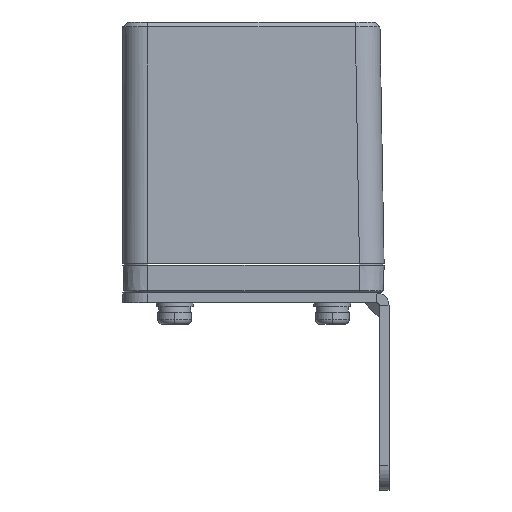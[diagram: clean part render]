
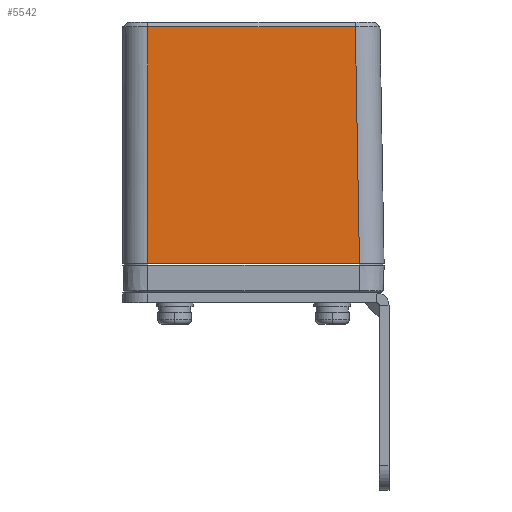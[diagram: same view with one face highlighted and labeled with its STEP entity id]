
A CAD part, left-side view. The second image highlights one B-rep face of the part: STEP entity #5542.
In plain terms, the highlighted planar face has unit normal (-1, 0, 0.018).
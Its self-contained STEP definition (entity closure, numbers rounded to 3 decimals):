
#1850=CARTESIAN_POINT('',(-92.,31.85,-24.35));
#1864=DIRECTION('',(0.,1.,0.));
#1865=VECTOR('',#1864,42.163);
#1866=CARTESIAN_POINT('',(-91.162,-10.313,
23.65));
#1867=LINE('',#1866,#1865);
#1868=DIRECTION('',(0.017,0.017,1.));
#1869=VECTOR('',#1868,48.015);
#1870=CARTESIAN_POINT('',(-92.,-11.151,-24.35));
#1871=LINE('',#1870,#1869);
#1872=DIRECTION('',(0.,1.,0.));
#1873=VECTOR('',#1872,43.001);
#1874=CARTESIAN_POINT('',(-92.,-11.151,-24.35));
#1875=LINE('',#1874,#1873);
#1876=DIRECTION('',(0.017,0.,1.));
#1877=VECTOR('',#1876,48.007);
#1878=CARTESIAN_POINT('',(-92.,31.85,-24.35));
#1879=LINE('',#1878,#1877);
#1931=CARTESIAN_POINT('',(-92.,-11.151,-24.35));
#2950=CARTESIAN_POINT('',(-91.162,-10.313,
23.65));
#2951=CARTESIAN_POINT('',(-91.162,31.85,23.65));
#2952=VERTEX_POINT('',#2950);
#2953=VERTEX_POINT('',#2951);
#2957=VERTEX_POINT('',#1931);
#2958=VERTEX_POINT('',#1850);
#5528=CARTESIAN_POINT('',(-92.,37.97,-24.35));
#5529=DIRECTION('',(-1.,0.,0.017));
#5530=DIRECTION('',(0.,1.,0.));
#5531=AXIS2_PLACEMENT_3D('',#5528,#5529,#5530);
#5532=PLANE('',#5531);
#5534=ORIENTED_EDGE('',*,*,#5533,.F.);
#5536=ORIENTED_EDGE('',*,*,#5535,.F.);
#5538=ORIENTED_EDGE('',*,*,#5537,.T.);
#5539=ORIENTED_EDGE('',*,*,#5520,.T.);
#5540=EDGE_LOOP('',(#5534,#5536,#5538,#5539));
#5541=FACE_OUTER_BOUND('',#5540,.F.);
#5542=ADVANCED_FACE('',(#5541),#5532,.T.);
#5520=EDGE_CURVE('',#2958,#2953,#1879,.T.);
#5533=EDGE_CURVE('',#2952,#2953,#1867,.T.);
#5535=EDGE_CURVE('',#2957,#2952,#1871,.T.);
#5537=EDGE_CURVE('',#2957,#2958,#1875,.T.);
